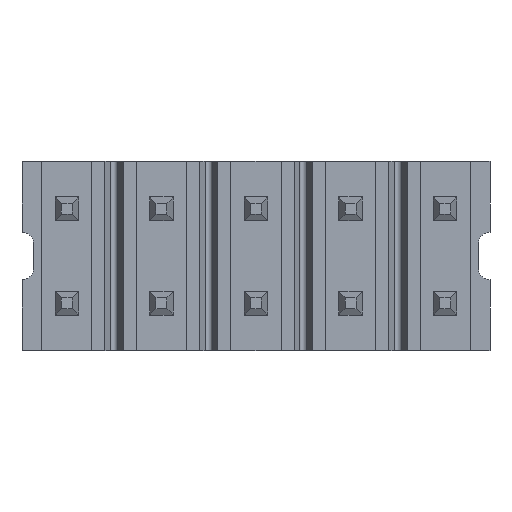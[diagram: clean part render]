
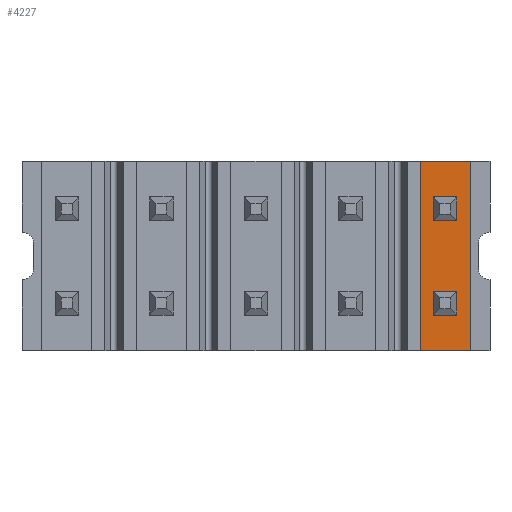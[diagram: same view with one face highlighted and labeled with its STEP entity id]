
A CAD part, front view. The second image highlights one B-rep face of the part: STEP entity #4227.
In plain terms, the highlighted planar face has unit normal (0, -1, 0).
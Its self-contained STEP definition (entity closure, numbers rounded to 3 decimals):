
#268=DIRECTION('',(-1.,0.,0.));
#269=VECTOR('',#268,1.06);
#270=CARTESIAN_POINT('',(4.53,-0.6,-2.));
#271=LINE('',#270,#269);
#490=DIRECTION('',(-1.,0.,0.));
#491=VECTOR('',#490,1.06);
#492=CARTESIAN_POINT('',(4.53,-0.6,2.));
#493=LINE('',#492,#491);
#877=DIRECTION('',(0.,0.,-1.));
#878=VECTOR('',#877,4.);
#879=CARTESIAN_POINT('',(4.53,-0.6,2.));
#880=LINE('',#879,#878);
#881=DIRECTION('',(0.,0.,1.));
#882=VECTOR('',#881,0.5);
#883=CARTESIAN_POINT('',(4.25,-0.6,-1.25));
#884=LINE('',#883,#882);
#885=DIRECTION('',(-1.,0.,0.));
#886=VECTOR('',#885,0.5);
#887=CARTESIAN_POINT('',(4.25,-0.6,-0.75));
#888=LINE('',#887,#886);
#889=DIRECTION('',(0.,0.,1.));
#890=VECTOR('',#889,0.5);
#891=CARTESIAN_POINT('',(3.75,-0.6,-1.25));
#892=LINE('',#891,#890);
#893=DIRECTION('',(-1.,0.,0.));
#894=VECTOR('',#893,0.5);
#895=CARTESIAN_POINT('',(4.25,-0.6,-1.25));
#896=LINE('',#895,#894);
#897=DIRECTION('',(0.,0.,1.));
#898=VECTOR('',#897,0.5);
#899=CARTESIAN_POINT('',(4.25,-0.6,0.75));
#900=LINE('',#899,#898);
#901=DIRECTION('',(-1.,0.,0.));
#902=VECTOR('',#901,0.5);
#903=CARTESIAN_POINT('',(4.25,-0.6,1.25));
#904=LINE('',#903,#902);
#905=DIRECTION('',(0.,0.,1.));
#906=VECTOR('',#905,0.5);
#907=CARTESIAN_POINT('',(3.75,-0.6,0.75));
#908=LINE('',#907,#906);
#909=DIRECTION('',(-1.,0.,0.));
#910=VECTOR('',#909,0.5);
#911=CARTESIAN_POINT('',(4.25,-0.6,0.75));
#912=LINE('',#911,#910);
#913=DIRECTION('',(0.,0.,-1.));
#914=VECTOR('',#913,4.);
#915=CARTESIAN_POINT('',(3.47,-0.6,2.));
#916=LINE('',#915,#914);
#3266=CARTESIAN_POINT('',(4.53,-0.6,-2.));
#3268=VERTEX_POINT('',#3266);
#3269=CARTESIAN_POINT('',(3.47,-0.6,-2.));
#3270=VERTEX_POINT('',#3269);
#3282=CARTESIAN_POINT('',(4.53,-0.6,2.));
#3284=VERTEX_POINT('',#3282);
#3285=CARTESIAN_POINT('',(3.47,-0.6,2.));
#3286=VERTEX_POINT('',#3285);
#3305=CARTESIAN_POINT('',(4.25,-0.6,-1.25));
#3306=CARTESIAN_POINT('',(4.25,-0.6,-0.75));
#3307=VERTEX_POINT('',#3305);
#3308=VERTEX_POINT('',#3306);
#3309=CARTESIAN_POINT('',(4.25,-0.6,0.75));
#3310=CARTESIAN_POINT('',(4.25,-0.6,1.25));
#3311=VERTEX_POINT('',#3309);
#3312=VERTEX_POINT('',#3310);
#3313=CARTESIAN_POINT('',(3.75,-0.6,-1.25));
#3314=CARTESIAN_POINT('',(3.75,-0.6,-0.75));
#3315=VERTEX_POINT('',#3313);
#3316=VERTEX_POINT('',#3314);
#3317=CARTESIAN_POINT('',(3.75,-0.6,0.75));
#3318=CARTESIAN_POINT('',(3.75,-0.6,1.25));
#3319=VERTEX_POINT('',#3317);
#3320=VERTEX_POINT('',#3318);
#4197=CARTESIAN_POINT('',(4.53,-0.6,2.));
#4198=DIRECTION('',(0.,1.,0.));
#4199=DIRECTION('',(-1.,0.,0.));
#4200=AXIS2_PLACEMENT_3D('',#4197,#4198,#4199);
#4201=PLANE('',#4200);
#4202=ORIENTED_EDGE('',*,*,#3584,.T.);
#4204=ORIENTED_EDGE('',*,*,#4203,.F.);
#4205=ORIENTED_EDGE('',*,*,#3881,.F.);
#4207=ORIENTED_EDGE('',*,*,#4206,.T.);
#4208=EDGE_LOOP('',(#4202,#4204,#4205,#4207));
#4209=FACE_OUTER_BOUND('',#4208,.F.);
#4210=ORIENTED_EDGE('',*,*,#4088,.T.);
#4212=ORIENTED_EDGE('',*,*,#4211,.T.);
#4214=ORIENTED_EDGE('',*,*,#4213,.F.);
#4216=ORIENTED_EDGE('',*,*,#4215,.F.);
#4217=EDGE_LOOP('',(#4210,#4212,#4214,#4216));
#4218=FACE_BOUND('',#4217,.F.);
#4219=ORIENTED_EDGE('',*,*,#4072,.T.);
#4221=ORIENTED_EDGE('',*,*,#4220,.T.);
#4223=ORIENTED_EDGE('',*,*,#4222,.F.);
#4224=ORIENTED_EDGE('',*,*,#4176,.F.);
#4225=EDGE_LOOP('',(#4219,#4221,#4223,#4224));
#4226=FACE_BOUND('',#4225,.F.);
#4227=ADVANCED_FACE('',(#4209,#4218,#4226),#4201,.F.);
#3584=EDGE_CURVE('',#3268,#3270,#271,.T.);
#3881=EDGE_CURVE('',#3284,#3286,#493,.T.);
#4072=EDGE_CURVE('',#3311,#3312,#900,.T.);
#4088=EDGE_CURVE('',#3307,#3308,#884,.T.);
#4176=EDGE_CURVE('',#3311,#3319,#912,.T.);
#4203=EDGE_CURVE('',#3286,#3270,#916,.T.);
#4206=EDGE_CURVE('',#3284,#3268,#880,.T.);
#4211=EDGE_CURVE('',#3308,#3316,#888,.T.);
#4213=EDGE_CURVE('',#3315,#3316,#892,.T.);
#4215=EDGE_CURVE('',#3307,#3315,#896,.T.);
#4220=EDGE_CURVE('',#3312,#3320,#904,.T.);
#4222=EDGE_CURVE('',#3319,#3320,#908,.T.);
